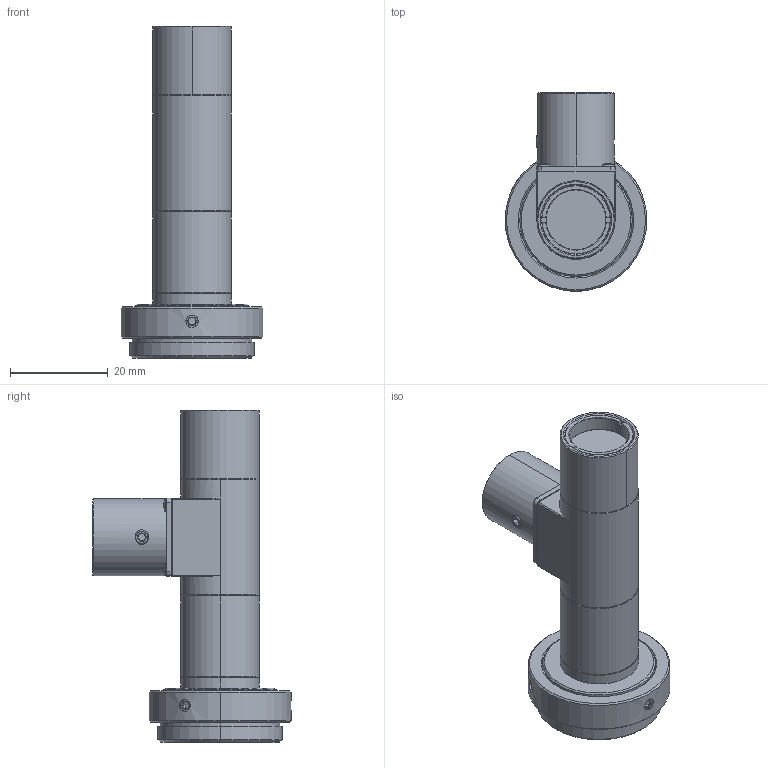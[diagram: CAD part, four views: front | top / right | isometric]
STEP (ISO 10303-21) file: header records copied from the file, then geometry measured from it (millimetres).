
FILE_DESCRIPTION (( 'STEP AP203' ), '1' );
FILE_NAME ('MML4-ST65DS_A03825A0100101A-001.STEP', '2013-12-12T00:46:42', ( 'SCHOTT' ), ( 'SCHOTT' ), 'SwSTEP 2.0', 'SolidWorks 2011', '' );
FILE_SCHEMA (( 'CONFIG_CONTROL_DESIGN' ));
Length unit declared in the file: millimetre
Products named in the file (1): MML4-ST65DS_A03825A0100101A-001
Bounding box: 29 x 40.5 x 67.85 mm (x, y, z)
Volume: 17439.5 mm3; surface area: 7733.3 mm2
Topology: 1 solids, 5 shells, 401 faces, 960 edges, 586 vertices
Faces by surface type: plane 171, cone 133, cylinder 73, torus 16, sphere 8
Entity records: 12209 total; most frequent: CARTESIAN_POINT 2921, DIRECTION 2006, ORIENTED_EDGE 1904, EDGE_CURVE 952, AXIS2_PLACEMENT_3D 845, VERTEX_POINT 586, CIRCLE 443, EDGE_LOOP 436
